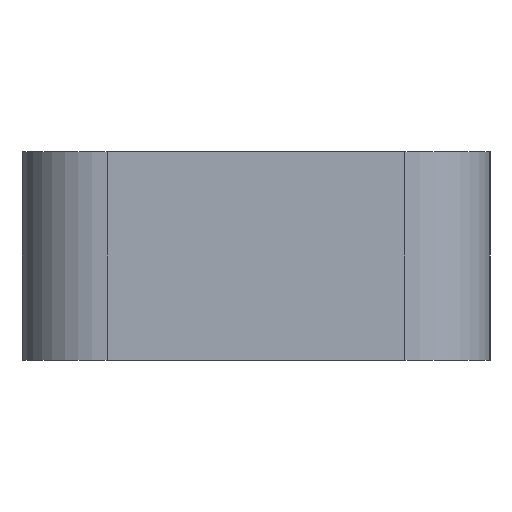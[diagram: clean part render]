
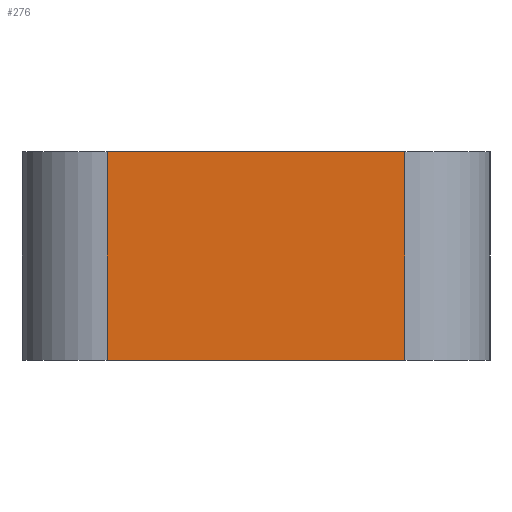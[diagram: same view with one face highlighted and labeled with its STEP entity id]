
A CAD part, left-side view. The second image highlights one B-rep face of the part: STEP entity #276.
In plain terms, the highlighted planar face has unit normal (-1, 0, 0).
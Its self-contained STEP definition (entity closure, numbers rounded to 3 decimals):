
#22 = EDGE_LOOP ( 'NONE', ( #294, #420, #636, #127 ) ) ;
#32 = DIRECTION ( 'NONE',  ( 0., -1., 0. ) ) ;
#46 = PLANE ( 'NONE',  #231 ) ;
#87 = LINE ( 'NONE', #452, #591 ) ;
#107 = EDGE_CURVE ( 'NONE', #520, #480, #87, .T. ) ;
#127 = ORIENTED_EDGE ( 'NONE', *, *, #274, .T. ) ;
#140 = EDGE_CURVE ( 'NONE', #586, #520, #421, .T. ) ;
#143 = DIRECTION ( 'NONE',  ( 0., 0., -1. ) ) ;
#181 = LINE ( 'NONE', #569, #369 ) ;
#203 = FACE_OUTER_BOUND ( 'NONE', #22, .T. ) ;
#207 = CARTESIAN_POINT ( 'NONE',  ( 0., 0., 4.9 ) ) ;
#218 = EDGE_CURVE ( 'NONE', #618, #480, #250, .T. ) ;
#231 = AXIS2_PLACEMENT_3D ( 'NONE', #207, #614, #143 ) ;
#250 = LINE ( 'NONE', #616, #743 ) ;
#274 = EDGE_CURVE ( 'NONE', #618, #586, #181, .T. ) ;
#276 = ADVANCED_FACE ( 'NONE', ( #203 ), #46, .F. ) ;
#291 = CARTESIAN_POINT ( 'NONE',  ( 0., 2., 4.9 ) ) ;
#294 = ORIENTED_EDGE ( 'NONE', *, *, #140, .T. ) ;
#337 = DIRECTION ( 'NONE',  ( 0., -1., 0. ) ) ;
#363 = CARTESIAN_POINT ( 'NONE',  ( 0., 2., 0. ) ) ;
#369 = VECTOR ( 'NONE', #745, 1000. ) ;
#420 = ORIENTED_EDGE ( 'NONE', *, *, #107, .T. ) ;
#421 = LINE ( 'NONE', #663, #730 ) ;
#452 = CARTESIAN_POINT ( 'NONE',  ( 0., 2., 4.9 ) ) ;
#480 = VERTEX_POINT ( 'NONE', #291 ) ;
#495 = CARTESIAN_POINT ( 'NONE',  ( 0., 9., 4.9 ) ) ;
#520 = VERTEX_POINT ( 'NONE', #363 ) ;
#569 = CARTESIAN_POINT ( 'NONE',  ( 0., 9., 4.9 ) ) ;
#586 = VERTEX_POINT ( 'NONE', #695 ) ;
#591 = VECTOR ( 'NONE', #667, 1000. ) ;
#614 = DIRECTION ( 'NONE',  ( 1., 0., 0. ) ) ;
#616 = CARTESIAN_POINT ( 'NONE',  ( 0., 0., 4.9 ) ) ;
#618 = VERTEX_POINT ( 'NONE', #495 ) ;
#636 = ORIENTED_EDGE ( 'NONE', *, *, #218, .F. ) ;
#663 = CARTESIAN_POINT ( 'NONE',  ( 0., 0., 0. ) ) ;
#667 = DIRECTION ( 'NONE',  ( 0., 0., 1. ) ) ;
#695 = CARTESIAN_POINT ( 'NONE',  ( 0., 9., 0. ) ) ;
#730 = VECTOR ( 'NONE', #32, 1000. ) ;
#743 = VECTOR ( 'NONE', #337, 1000. ) ;
#745 = DIRECTION ( 'NONE',  ( 0., 0., -1. ) ) ;
